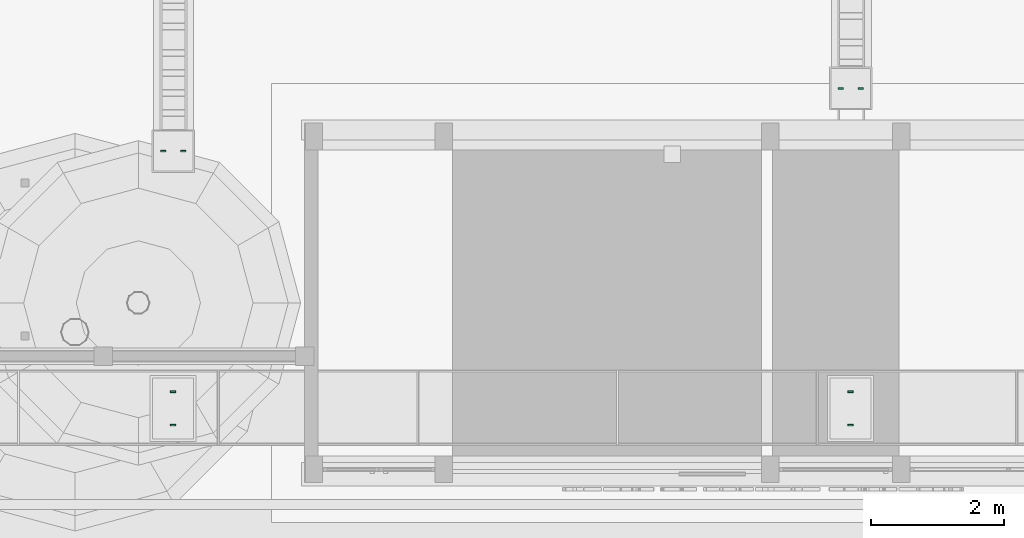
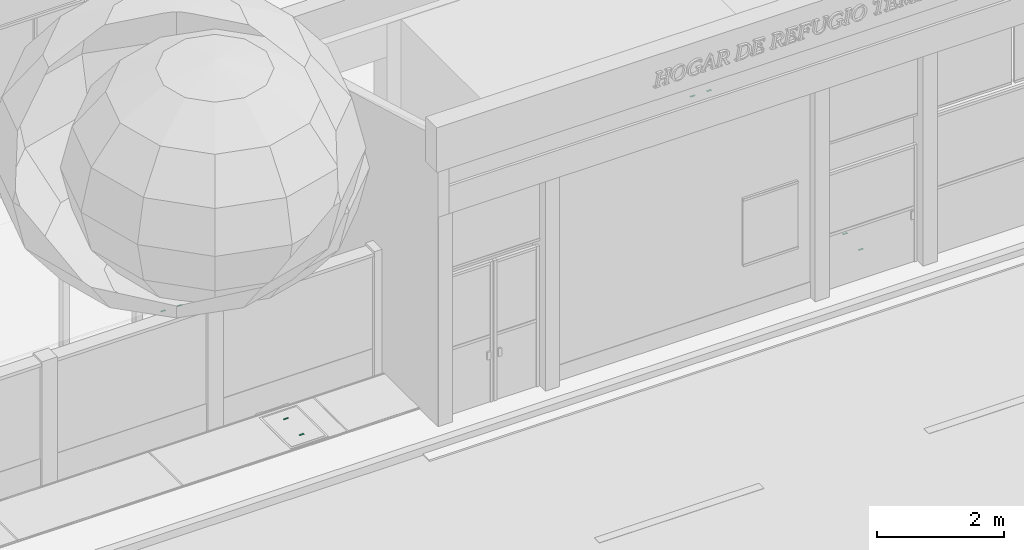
# One storey, part 125 of 166: 8 distribution chamber elements.
"""IFC2X3 building model written with IfcOpenShell, lengths in metres."""

import ifcopenshell
import ifcopenshell.guid

model = None  # the IFC model being written
_history = None  # IfcOwnerHistory: only IFC2X3 demands one
_inside = {}  # id of a spatial element -> (the spatial element, [elements in it])
_under = {}  # id of a project, library or spatial element -> (it, [spatial elements below it])
_declared = {}  # id of a project -> (the project, [libraries it declares])
_typed = {}  # id of a type object -> (the type object, [elements of that type])
_made_of = {}  # id of a material, layer set ... -> (it, [elements and type objects made of it])


def new_model(schema):
    """Start an empty IFC model of exactly this schema.

    Asked for "IFC4X3", IfcOpenShell would pick the latest addendum, in which some entities
    have other attributes; the version numbers below select the first issue.
    IFC2X3 requires an IfcOwnerHistory on every rooted entity: one is made here for all.
    """
    global model, _history
    if schema == "IFC4X3":
        model = ifcopenshell.file(schema_version=(4, 3, 0, 0))
    else:
        model = ifcopenshell.file(schema=schema)
    _inside.clear()
    _under.clear()
    _declared.clear()
    _typed.clear()
    _made_of.clear()
    _history = None
    if model.schema == "IFC2X3":
        org = make("IfcOrganization", Name="unknown")
        user = make(
            "IfcPersonAndOrganization",
            ThePerson=make("IfcPerson", FamilyName="unknown"),
            TheOrganization=org,
        )
        app = make(
            "IfcApplication",
            ApplicationDeveloper=org,
            Version="unknown",
            ApplicationFullName="unknown",
            ApplicationIdentifier="unknown",
        )
        _history = make(
            "IfcOwnerHistory",
            OwningUser=user,
            OwningApplication=app,
            ChangeAction="ADDED",
            CreationDate=0,
        )
    return model


def make(cls, **values):
    """One entity of the class cls with the attributes given. An attribute that is None is left unset."""
    return model.create_entity(
        cls, **{name: value for name, value in values.items() if value is not None}
    )


def rooted(cls, **values):
    """An entity with a GlobalId (a new one), such as an element, a storey or a relation."""
    return make(cls, GlobalId=ifcopenshell.guid.new(), OwnerHistory=_history, **values)


def si_unit(unit_type, name, prefix=None):
    """IfcSIUnit, for example si_unit("LENGTHUNIT", "METRE", prefix="MILLI")."""
    return make("IfcSIUnit", UnitType=unit_type, Prefix=prefix, Name=name)


def assignment(units):
    """IfcUnitAssignment: the units of a project."""
    return None if units is None else make("IfcUnitAssignment", Units=units)


def point(xyz):
    """IfcCartesianPoint."""
    return None if xyz is None else make("IfcCartesianPoint", Coordinates=xyz)


def direction(xyz):
    """IfcDirection."""
    return None if xyz is None else make("IfcDirection", DirectionRatios=xyz)


def frame(location, z_axis=None, x_axis=None):
    """IfcAxis2Placement3D, a coordinate frame: its origin and axes. An axis left out is left unset."""
    return make(
        "IfcAxis2Placement3D",
        Location=point(location),
        Axis=direction(z_axis),
        RefDirection=direction(x_axis),
    )


def origin():
    """The frame at (0, 0, 0) with its axes left unset."""
    return frame((0.0, 0.0, 0.0))


def origin_with_axes():
    """The frame at (0, 0, 0) with the z axis (0, 0, 1) and the x axis (1, 0, 0) written out."""
    return frame((0.0, 0.0, 0.0), z_axis=(0.0, 0.0, 1.0), x_axis=(1.0, 0.0, 0.0))


def place(relative_to, where):
    """IfcLocalPlacement: puts the frame where relative to a parent placement (None: the world)."""
    return make(
        "IfcLocalPlacement", PlacementRelTo=relative_to, RelativePlacement=where
    )


def context(
    kind, dimensions, precision=None, world=None, true_north=None, identifier=None
):
    """IfcGeometricRepresentationContext, for example the 3D "Model" context."""
    return make(
        "IfcGeometricRepresentationContext",
        ContextIdentifier=identifier,
        ContextType=kind,
        CoordinateSpaceDimension=dimensions,
        Precision=precision,
        WorldCoordinateSystem=world,
        TrueNorth=true_north,
    )


def subcontext(parent, identifier, kind, view, scale=None):
    """IfcGeometricRepresentationSubContext, for example "Body" below "Model"."""
    return make(
        "IfcGeometricRepresentationSubContext",
        ContextIdentifier=identifier,
        ContextType=kind,
        ParentContext=parent,
        TargetScale=scale,
        TargetView=view,
    )


def project(units=None, contexts=None):
    """IfcProject with its units and contexts."""
    return rooted(
        "IfcProject",
        Name="project",
        RepresentationContexts=contexts,
        UnitsInContext=assignment(units),
    )


def spatial(cls, under=None, at=None, **own):
    """A site, building, storey or space (cls), placed at a placement, below another one or the project."""
    s = rooted(cls, ObjectPlacement=at, **own)
    if under is not None:
        _under.setdefault(under.id(), (under, []))[1].append(s)
    return s


def faces_of(points, faces, orient=None, outer=None):
    """IfcFace entities. A face is a list of loops; a loop is a list of indices into points, from 0.

    orient and outer hold one flag for each loop. By default every Orientation is true, the
    first loop of a face is its IfcFaceOuterBound and the others are IfcFaceBound.
    """
    made = []
    for i, loops in enumerate(faces):
        bounds = []
        for j, loop in enumerate(loops):
            is_outer = j == 0 if outer is None else outer[i][j]
            bounds.append(
                make(
                    "IfcFaceOuterBound" if is_outer else "IfcFaceBound",
                    Bound=make("IfcPolyLoop", Polygon=[points[k] for k in loop]),
                    Orientation=True if orient is None else orient[i][j],
                )
            )
        made.append(make("IfcFace", Bounds=bounds))
    return made


def faceted_brep(points, faces, orient=None, outer=None, voids=None):
    """IfcFacetedBrep: a solid bounded by flat faces; with voids (closed shells), ...WithVoids."""
    shared = [point(p) for p in points]
    hull = make("IfcClosedShell", CfsFaces=faces_of(shared, faces, orient, outer))
    if voids is None:
        return make("IfcFacetedBrep", Outer=hull)
    return make(
        "IfcFacetedBrepWithVoids",
        Outer=hull,
        Voids=[
            make(cls, CfsFaces=faces_of(shared, fs, o, b)) for cls, fs, o, b in voids
        ],
    )


def shape(context_of_items, identifier, shape_type, items):
    """IfcShapeRepresentation: the items that make up one representation, for example the "Body"."""
    return make(
        "IfcShapeRepresentation",
        ContextOfItems=context_of_items,
        RepresentationIdentifier=identifier,
        RepresentationType=shape_type,
        Items=items,
    )


def made_of(thing, what):
    """Note that an element or type object is made of a material, layer set ...; save() writes the relation."""
    if what is not None:
        _made_of.setdefault(what.id(), (what, []))[1].append(thing)
    return thing


def element(
    cls,
    number,
    at=None,
    inside=None,
    cuts=None,
    type_object=None,
    material=None,
    context=None,
    identifier="Body",
    shape_type=None,
    held_by="IfcProductDefinitionShape",
    body=None,
    shapes=None,
    **own,
):
    """One element of the class cls, such as IfcWall. Its Tag is "e" and its number.

    at: its placement. inside: the storey or other place that contains it. cuts: it is an
    opening in that element (IfcRelVoidsElement). A single representation is given by context,
    identifier, shape_type and body (its items); several are given by shapes. held_by: the class
    of the entity that holds the representations. save() writes the other relations.
    """
    e = rooted(cls, Tag="e%d" % number, ObjectPlacement=at, **own)
    if body is not None:
        shapes = [shape(context, identifier, shape_type, body)]
    if shapes is not None:
        e.Representation = make(held_by, Representations=shapes)
    if inside is not None:
        _inside.setdefault(inside.id(), (inside, []))[1].append(e)
    if cuts is not None:
        rooted(
            "IfcRelVoidsElement", RelatingBuildingElement=cuts, RelatedOpeningElement=e
        )
    if type_object is not None:
        _typed.setdefault(type_object.id(), (type_object, []))[1].append(e)
    return made_of(e, material)


def aggregate(whole, parts):
    """IfcRelAggregates: a whole, such as a stair, and the parts it consists of."""
    return rooted("IfcRelAggregates", RelatingObject=whole, RelatedObjects=parts)


def save(model, path):
    """Write the relations noted so far, then the file.

    IfcRelAggregates (storeys below a building ...), IfcRelContainedInSpatialStructure (elements
    in a storey), IfcRelDefinesByType, IfcRelAssociatesMaterial and IfcRelDeclares: one each for
    every whole, place, type object, material and project.
    """
    for whole, parts in _under.values():
        aggregate(whole, parts)
    for where, things in _inside.values():
        rooted(
            "IfcRelContainedInSpatialStructure",
            RelatedElements=things,
            RelatingStructure=where,
        )
    for kind, things in _typed.values():
        rooted("IfcRelDefinesByType", RelatedObjects=things, RelatingType=kind)
    for what, things in _made_of.values():
        rooted("IfcRelAssociatesMaterial", RelatedObjects=things, RelatingMaterial=what)
    for by, libraries in _declared.values():
        rooted("IfcRelDeclares", RelatingContext=by, RelatedDefinitions=libraries)
    model.write(path)


model = new_model("IFC2X3")

# Units and contexts
model_context = context("Model", 3, precision=1e-05, world=origin_with_axes())
body_context = subcontext(model_context, "Body", "Model", "MODEL_VIEW")
ifc_project = project(units=[si_unit("LENGTHUNIT", "METRE"), si_unit("AREAUNIT", "SQUARE_METRE"), si_unit("VOLUMEUNIT", "CUBIC_METRE"), si_unit("PLANEANGLEUNIT", "RADIAN")], contexts=[model_context])

# Site, building, storey
site_placement = place(None, origin_with_axes())
site = spatial("IfcSite", under=ifc_project, at=site_placement, Name="Predio Los Mangos - Morales, San Martín", CompositionType="ELEMENT")
building_placement = place(site_placement, origin())
building = spatial("IfcBuilding", under=site, at=building_placement, Name="Hogar de Refugio Temporal", CompositionType="ELEMENT")
storey_placement = place(building_placement, origin())
storey = spatial("IfcBuildingStorey", under=building, at=storey_placement, Name="NIVEL 1 (NPT +0.00)", CompositionType="ELEMENT", Elevation=0.0)

# Distribution chamber elements
distribution_chamber_element_1_placement = place(storey_placement, origin())
element("IfcDistributionChamberElement", 1, at=distribution_chamber_element_1_placement, inside=storey, Name="tapa_insp_asa", ObjectType="Tapa de inspección", context=body_context, shape_type="Brep", body=[
    faceted_brep([(29.134, 21.068, 0.104), (29.134, 21.092, 0.104), (29.214, 21.092, 0.104), (29.214, 21.068, 0.104), (29.134, 21.068, 0.108), (29.214, 21.068, 0.108), (29.214, 21.092, 0.108), (29.134, 21.092, 0.108)], [[[0, 1, 2, 3]], [[4, 5, 6, 7]], [[0, 3, 5, 4]], [[3, 2, 6, 5]], [[2, 1, 7, 6]], [[1, 0, 4, 7]]]),
])
distribution_chamber_element_2_placement = place(storey_placement, origin())
element("IfcDistributionChamberElement", 2, at=distribution_chamber_element_2_placement, inside=storey, Name="tapa_insp_asa", ObjectType="Tapa de inspección", context=body_context, shape_type="Brep", body=[
    faceted_brep([(29.434, 21.068, 0.104), (29.434, 21.092, 0.104), (29.514, 21.092, 0.104), (29.514, 21.068, 0.104), (29.434, 21.068, 0.108), (29.514, 21.068, 0.108), (29.514, 21.092, 0.108), (29.434, 21.092, 0.108)], [[[0, 1, 2, 3]], [[4, 5, 6, 7]], [[0, 3, 5, 4]], [[3, 2, 6, 5]], [[2, 1, 7, 6]], [[1, 0, 4, 7]]]),
])
distribution_chamber_element_3_placement = place(storey_placement, origin())
element("IfcDistributionChamberElement", 3, at=distribution_chamber_element_3_placement, inside=storey, Name="tapa_insp_asa", ObjectType="Tapa de inspección", context=body_context, shape_type="Brep", body=[
    faceted_brep([(39.315, 22.011, 0.104), (39.315, 22.035, 0.104), (39.395, 22.035, 0.104), (39.395, 22.011, 0.104), (39.315, 22.011, 0.108), (39.395, 22.011, 0.108), (39.395, 22.035, 0.108), (39.315, 22.035, 0.108)], [[[0, 1, 2, 3]], [[4, 5, 6, 7]], [[0, 3, 5, 4]], [[3, 2, 6, 5]], [[2, 1, 7, 6]], [[1, 0, 4, 7]]]),
])
distribution_chamber_element_4_placement = place(storey_placement, origin())
element("IfcDistributionChamberElement", 4, at=distribution_chamber_element_4_placement, inside=storey, Name="tapa_insp_asa", ObjectType="Tapa de inspección", context=body_context, shape_type="Brep", body=[
    faceted_brep([(39.615, 22.011, 0.104), (39.615, 22.035, 0.104), (39.695, 22.035, 0.104), (39.695, 22.011, 0.104), (39.615, 22.011, 0.108), (39.695, 22.011, 0.108), (39.695, 22.035, 0.108), (39.615, 22.035, 0.108)], [[[0, 1, 2, 3]], [[4, 5, 6, 7]], [[0, 3, 5, 4]], [[3, 2, 6, 5]], [[2, 1, 7, 6]], [[1, 0, 4, 7]]]),
])
distribution_chamber_element_5_placement = place(storey_placement, origin())
element("IfcDistributionChamberElement", 5, at=distribution_chamber_element_5_placement, inside=storey, Name="tapa_asa", ObjectType="Tapa ciega de registro del colector", context=body_context, shape_type="Brep", body=[
    faceted_brep([(39.46, 16.953, 0.168), (39.46, 16.977, 0.168), (39.54, 16.977, 0.168), (39.54, 16.953, 0.168), (39.46, 16.953, 0.172), (39.54, 16.953, 0.172), (39.54, 16.977, 0.172), (39.46, 16.977, 0.172)], [[[0, 1, 2, 3]], [[4, 5, 6, 7]], [[0, 3, 5, 4]], [[3, 2, 6, 5]], [[2, 1, 7, 6]], [[1, 0, 4, 7]]]),
])
distribution_chamber_element_6_placement = place(storey_placement, origin())
element("IfcDistributionChamberElement", 6, at=distribution_chamber_element_6_placement, inside=storey, Name="tapa_asa", ObjectType="Tapa ciega de registro del colector", context=body_context, shape_type="Brep", body=[
    faceted_brep([(39.46, 17.453, 0.168), (39.46, 17.477, 0.168), (39.54, 17.477, 0.168), (39.54, 17.453, 0.168), (39.46, 17.453, 0.172), (39.54, 17.453, 0.172), (39.54, 17.477, 0.172), (39.46, 17.477, 0.172)], [[[0, 1, 2, 3]], [[4, 5, 6, 7]], [[0, 3, 5, 4]], [[3, 2, 6, 5]], [[2, 1, 7, 6]], [[1, 0, 4, 7]]]),
])
distribution_chamber_element_7_placement = place(storey_placement, origin())
element("IfcDistributionChamberElement", 7, at=distribution_chamber_element_7_placement, inside=storey, Name="tapa_asa", ObjectType="Tapa ciega de registro del colector", context=body_context, shape_type="Brep", body=[
    faceted_brep([(29.28, 16.953, 0.168), (29.28, 16.977, 0.168), (29.36, 16.977, 0.168), (29.36, 16.953, 0.168), (29.28, 16.953, 0.172), (29.36, 16.953, 0.172), (29.36, 16.977, 0.172), (29.28, 16.977, 0.172)], [[[0, 1, 2, 3]], [[4, 5, 6, 7]], [[0, 3, 5, 4]], [[3, 2, 6, 5]], [[2, 1, 7, 6]], [[1, 0, 4, 7]]]),
])
distribution_chamber_element_8_placement = place(storey_placement, origin())
element("IfcDistributionChamberElement", 8, at=distribution_chamber_element_8_placement, inside=storey, Name="tapa_asa", ObjectType="Tapa ciega de registro del colector", context=body_context, shape_type="Brep", body=[
    faceted_brep([(29.28, 17.453, 0.168), (29.28, 17.477, 0.168), (29.36, 17.477, 0.168), (29.36, 17.453, 0.168), (29.28, 17.453, 0.172), (29.36, 17.453, 0.172), (29.36, 17.477, 0.172), (29.28, 17.477, 0.172)], [[[0, 1, 2, 3]], [[4, 5, 6, 7]], [[0, 3, 5, 4]], [[3, 2, 6, 5]], [[2, 1, 7, 6]], [[1, 0, 4, 7]]]),
])

save(model, "model.ifc")
